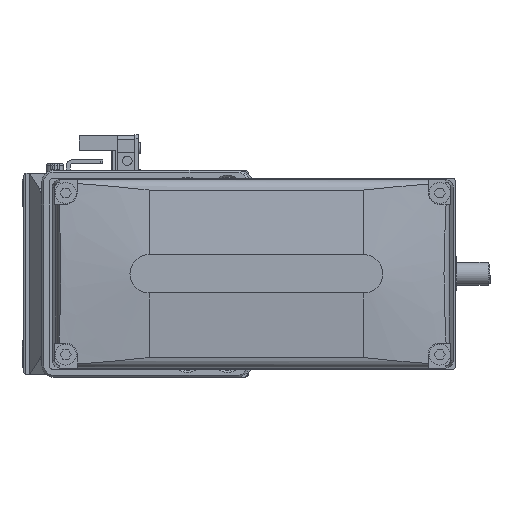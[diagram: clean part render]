
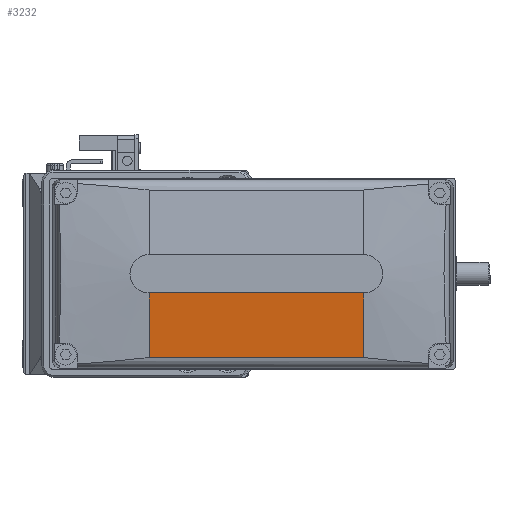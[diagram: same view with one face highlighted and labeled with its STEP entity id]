
A CAD part, left-side view. The second image highlights one B-rep face of the part: STEP entity #3232.
In plain terms, the highlighted planar face has unit normal (-0.996, 0, -0.087).
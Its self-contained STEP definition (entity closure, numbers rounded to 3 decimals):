
#451 = VERTEX_POINT ( 'NONE', #14699 ) ;
#1128 = ORIENTED_EDGE ( 'NONE', *, *, #1469, .T. ) ;
#1469 = EDGE_CURVE ( 'NONE', #18694, #451, #14177, .T. ) ;
#1870 = DIRECTION ( 'NONE',  ( -0.087, 0., 0.996 ) ) ;
#2030 = VECTOR ( 'NONE', #33118, 1000. ) ;
#2439 = LINE ( 'NONE', #9654, #34300 ) ;
#2556 = CARTESIAN_POINT ( 'NONE',  ( -48.525, 28., -21.861 ) ) ;
#3232 = ADVANCED_FACE ( 'NONE', ( #26239 ), #4763, .T. ) ;
#4023 = DIRECTION ( 'NONE',  ( 0.087, 0., -0.996 ) ) ;
#4763 = PLANE ( 'NONE',  #35634 ) ;
#6538 = VERTEX_POINT ( 'NONE', #2556 ) ;
#7527 = CARTESIAN_POINT ( 'NONE',  ( -50., 128., -5. ) ) ;
#9424 = CARTESIAN_POINT ( 'NONE',  ( -48.525, -28., -21.861 ) ) ;
#9654 = CARTESIAN_POINT ( 'NONE',  ( 43606.406, -28., -499000. ) ) ;
#11415 = VECTOR ( 'NONE', #14242, 1000. ) ;
#11534 = LINE ( 'NONE', #20567, #11415 ) ;
#12794 = EDGE_CURVE ( 'NONE', #6538, #451, #11534, .T. ) ;
#14177 = LINE ( 'NONE', #32513, #2030 ) ;
#14242 = DIRECTION ( 'NONE',  ( -0.087, 0., 0.996 ) ) ;
#14699 = CARTESIAN_POINT ( 'NONE',  ( -50., 28., -5. ) ) ;
#15446 = VERTEX_POINT ( 'NONE', #9424 ) ;
#17415 = EDGE_CURVE ( 'NONE', #15446, #6538, #27633, .T. ) ;
#17687 = EDGE_CURVE ( 'NONE', #18694, #15446, #2439, .T. ) ;
#17871 = CARTESIAN_POINT ( 'NONE',  ( -50., -28., -5. ) ) ;
#18694 = VERTEX_POINT ( 'NONE', #17871 ) ;
#19104 = DIRECTION ( 'NONE',  ( -0.996, 0., -0.087 ) ) ;
#20567 = CARTESIAN_POINT ( 'NONE',  ( 43606.406, 28., -499000. ) ) ;
#25732 = DIRECTION ( 'NONE',  ( 0., 1., 0. ) ) ;
#25915 = ORIENTED_EDGE ( 'NONE', *, *, #17687, .F. ) ;
#26239 = FACE_OUTER_BOUND ( 'NONE', #30659, .T. ) ;
#27633 = LINE ( 'NONE', #34242, #34768 ) ;
#28358 = ORIENTED_EDGE ( 'NONE', *, *, #12794, .F. ) ;
#30659 = EDGE_LOOP ( 'NONE', ( #28358, #33488, #25915, #1128 ) ) ;
#32513 = CARTESIAN_POINT ( 'NONE',  ( -50., 128., -5. ) ) ;
#33118 = DIRECTION ( 'NONE',  ( 0., 1., 0. ) ) ;
#33488 = ORIENTED_EDGE ( 'NONE', *, *, #17415, .F. ) ;
#34242 = CARTESIAN_POINT ( 'NONE',  ( -48.525, 128., -21.861 ) ) ;
#34300 = VECTOR ( 'NONE', #4023, 1000. ) ;
#34768 = VECTOR ( 'NONE', #25732, 1000. ) ;
#35634 = AXIS2_PLACEMENT_3D ( 'NONE', #7527, #19104, #1870 ) ;
